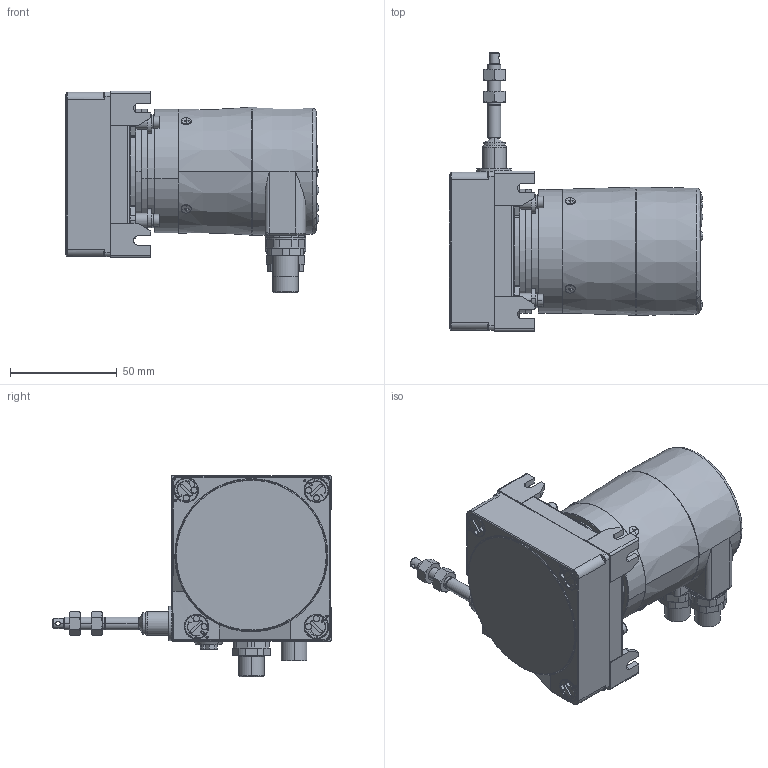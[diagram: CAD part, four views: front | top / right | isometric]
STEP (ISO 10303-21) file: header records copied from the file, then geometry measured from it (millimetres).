
FILE_DESCRIPTION (( 'STEP AP214' ), '1' );
FILE_NAME ('D8.1503.6832.3113.STEP', '2015-12-11T10:40:13', ( 'HeirlerN' ), ( 'Microsoft' ), 'SwSTEP 2.0', 'SolidWorks 2013', '' );
FILE_SCHEMA (( 'AUTOMOTIVE_DESIGN' ));
Length unit declared in the file: millimetre
Products named in the file (1): D8.1503.6832.3113
Bounding box: 118.9 x 130.6 x 94.5 mm (x, y, z)
Surface area: 97271.7 mm2 (no closed solid volume)
Topology: 0 solids, 53 shells, 3083 faces, 8521 edges, 5468 vertices
Faces by surface type: cylinder 1280, plane 992, cone 419, bspline 225, torus 141, sphere 26
Entity records: 148014 total; most frequent: CARTESIAN_POINT 36520, DIRECTION 16346, ORIENTED_EDGE 16274, EDGE_CURVE 8413, AXIS2_PLACEMENT_3D 6521, VERTEX_POINT 5468, CIRCLE 3662, EDGE_LOOP 3319
